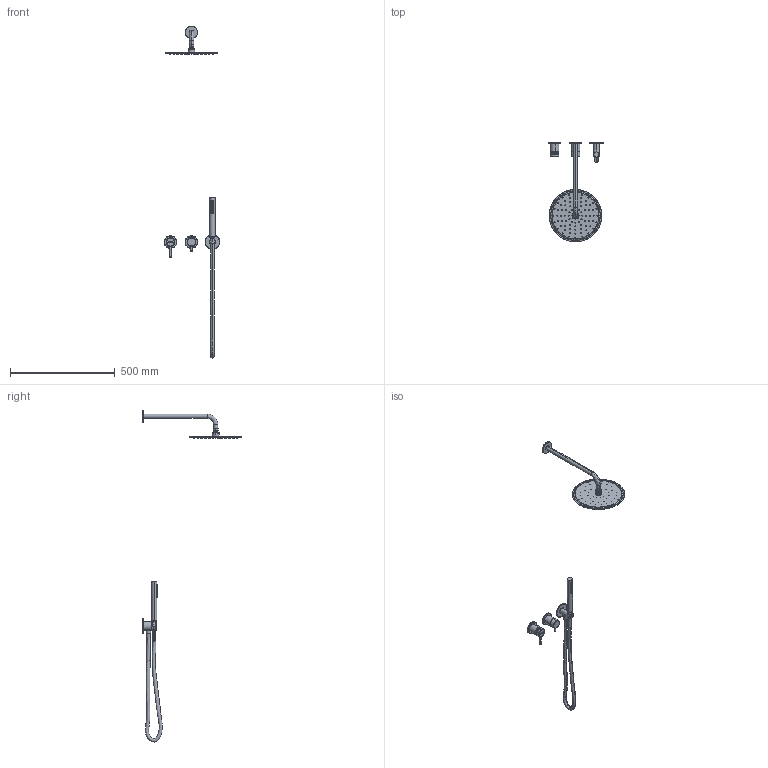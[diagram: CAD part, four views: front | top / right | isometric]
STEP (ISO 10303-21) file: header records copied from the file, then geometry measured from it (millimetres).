
FILE_DESCRIPTION(/* description */ (''),/* implementation_level */ '2;1');
FILE_NAME(/* name */ 'ST2550ACC',/* time_stamp */ '2024-03-14T15:14:39+01:00',/* author */ (''),/* organization */ (''),/* preprocessor_version */ 'ST-DEVELOPER v16.5',/* originating_system */ 'Rhino 7.36',/* authorisation */ '');
FILE_SCHEMA (('CONFIG_CONTROL_DESIGN'));
Products named in the file (1): Document
Bounding box: 264.94 x 476 x 1582.69 mm (x, y, z)
Volume: 278974.6 mm3; surface area: 391948.3 mm2
Topology: 106 solids, 175 shells, 2263 faces, 5023 edges, 3115 vertices
Faces by surface type: bspline 870, cylinder 840, plane 553
Entity records: 72948 total; most frequent: CARTESIAN_POINT 41650, ORIENTED_EDGE 9743, EDGE_CURVE 5018, VERTEX_POINT 3113, EDGE_LOOP 2776, ADVANCED_FACE 2263, FACE_OUTER_BOUND 2263, DIRECTION 1401
